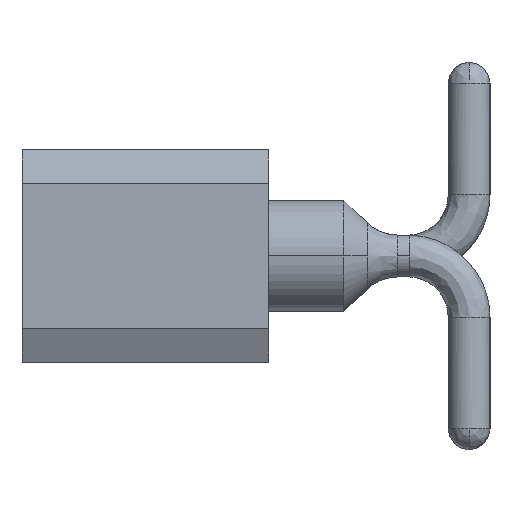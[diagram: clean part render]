
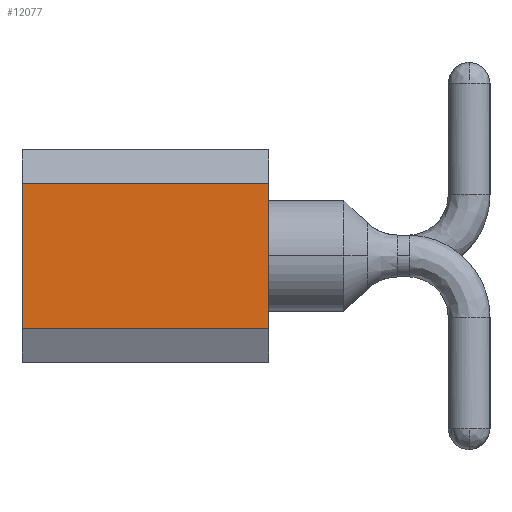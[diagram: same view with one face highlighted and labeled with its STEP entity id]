
A CAD part, left-side view. The second image highlights one B-rep face of the part: STEP entity #12077.
In plain terms, the highlighted free-form (B-spline) face has degree [1, 1] with [2, 2] control points.
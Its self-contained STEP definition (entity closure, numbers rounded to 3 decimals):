
#12054 = VERTEX_POINT('',#12055);
#12055 = CARTESIAN_POINT('',(-10.16,2.95,-0.87));
#12060 = EDGE_CURVE('',#12061,#12054,#12063,.T.);
#12061 = VERTEX_POINT('',#12062);
#12062 = CARTESIAN_POINT('',(-10.16,0.,-0.87));
#12063 = B_SPLINE_CURVE_WITH_KNOTS('',1,(#12064,#12065),.UNSPECIFIED.,
  .F.,.F.,(2,2),(0.,2.95),.PIECEWISE_BEZIER_KNOTS.);
#12064 = CARTESIAN_POINT('',(-10.16,0.,-0.87));
#12065 = CARTESIAN_POINT('',(-10.16,2.95,-0.87));
#12077 = ADVANCED_FACE('',(#12078),#12100,.F.);
#12078 = FACE_BOUND('',#12079,.F.);
#12079 = EDGE_LOOP('',(#12080,#12087,#12094,#12099));
#12080 = ORIENTED_EDGE('',*,*,#12081,.T.);
#12081 = EDGE_CURVE('',#12054,#12082,#12084,.T.);
#12082 = VERTEX_POINT('',#12083);
#12083 = CARTESIAN_POINT('',(-10.16,2.95,0.87));
#12084 = B_SPLINE_CURVE_WITH_KNOTS('',1,(#12085,#12086),.UNSPECIFIED.,
  .F.,.F.,(2,2),(0.,1.74),.PIECEWISE_BEZIER_KNOTS.);
#12085 = CARTESIAN_POINT('',(-10.16,2.95,-0.87));
#12086 = CARTESIAN_POINT('',(-10.16,2.95,0.87));
#12087 = ORIENTED_EDGE('',*,*,#12088,.F.);
#12088 = EDGE_CURVE('',#12089,#12082,#12091,.T.);
#12089 = VERTEX_POINT('',#12090);
#12090 = CARTESIAN_POINT('',(-10.16,0.,0.87));
#12091 = B_SPLINE_CURVE_WITH_KNOTS('',1,(#12092,#12093),.UNSPECIFIED.,
  .F.,.F.,(2,2),(0.,2.95),.PIECEWISE_BEZIER_KNOTS.);
#12092 = CARTESIAN_POINT('',(-10.16,0.,0.87));
#12093 = CARTESIAN_POINT('',(-10.16,2.95,0.87));
#12094 = ORIENTED_EDGE('',*,*,#12095,.F.);
#12095 = EDGE_CURVE('',#12061,#12089,#12096,.T.);
#12096 = B_SPLINE_CURVE_WITH_KNOTS('',1,(#12097,#12098),.UNSPECIFIED.,
  .F.,.F.,(2,2),(0.,1.74),.PIECEWISE_BEZIER_KNOTS.);
#12097 = CARTESIAN_POINT('',(-10.16,0.,-0.87));
#12098 = CARTESIAN_POINT('',(-10.16,0.,0.87));
#12099 = ORIENTED_EDGE('',*,*,#12060,.T.);
#12100 = B_SPLINE_SURFACE_WITH_KNOTS('',1,1,(
    (#12101,#12102)
    ,(#12103,#12104
  )),.UNSPECIFIED.,.F.,.F.,.F.,(2,2),(2,2),(-0.87,0.87),(
    0.,2.95),.PIECEWISE_BEZIER_KNOTS.);
#12101 = CARTESIAN_POINT('',(-10.16,0.,0.87));
#12102 = CARTESIAN_POINT('',(-10.16,2.95,0.87));
#12103 = CARTESIAN_POINT('',(-10.16,0.,-0.87));
#12104 = CARTESIAN_POINT('',(-10.16,2.95,-0.87));
